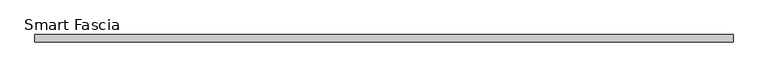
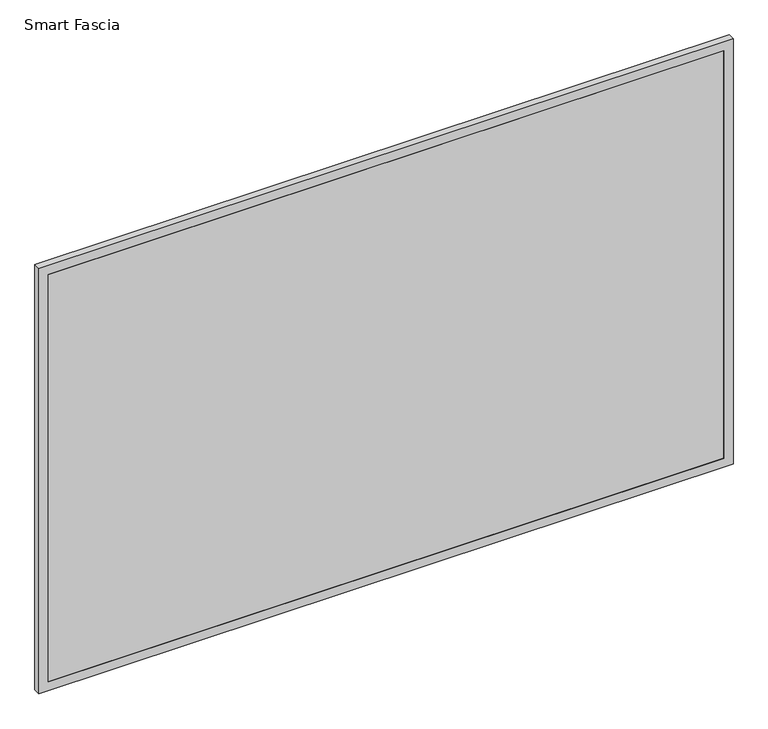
"""IFC4 building model written with IfcOpenShell, lengths in millimetres: proxy geometry, Panel-Fascia-Teknion-Altos-Smart : Smart Fascia."""

import ifcopenshell
import ifcopenshell.guid

model = None  # the IFC model being written
_history = None  # IfcOwnerHistory: only IFC2X3 demands one
_inside = {}  # id of a spatial element -> (the spatial element, [elements in it])
_under = {}  # id of a project, library or spatial element -> (it, [spatial elements below it])
_declared = {}  # id of a project -> (the project, [libraries it declares])
_typed = {}  # id of a type object -> (the type object, [elements of that type])
_made_of = {}  # id of a material, layer set ... -> (it, [elements and type objects made of it])


def new_model(schema):
    """Start an empty IFC model of exactly this schema.

    Asked for "IFC4X3", IfcOpenShell would pick the latest addendum, in which some entities
    have other attributes; the version numbers below select the first issue.
    IFC2X3 requires an IfcOwnerHistory on every rooted entity: one is made here for all.
    """
    global model, _history
    if schema == "IFC4X3":
        model = ifcopenshell.file(schema_version=(4, 3, 0, 0))
    else:
        model = ifcopenshell.file(schema=schema)
    _inside.clear()
    _under.clear()
    _declared.clear()
    _typed.clear()
    _made_of.clear()
    _history = None
    if model.schema == "IFC2X3":
        org = make("IfcOrganization", Name="unknown")
        user = make(
            "IfcPersonAndOrganization",
            ThePerson=make("IfcPerson", FamilyName="unknown"),
            TheOrganization=org,
        )
        app = make(
            "IfcApplication",
            ApplicationDeveloper=org,
            Version="unknown",
            ApplicationFullName="unknown",
            ApplicationIdentifier="unknown",
        )
        _history = make(
            "IfcOwnerHistory",
            OwningUser=user,
            OwningApplication=app,
            ChangeAction="ADDED",
            CreationDate=0,
        )
    return model


def make(cls, **values):
    """One entity of the class cls with the attributes given. An attribute that is None is left unset."""
    return model.create_entity(
        cls, **{name: value for name, value in values.items() if value is not None}
    )


def rooted(cls, **values):
    """An entity with a GlobalId (a new one), such as an element, a storey or a relation."""
    return make(cls, GlobalId=ifcopenshell.guid.new(), OwnerHistory=_history, **values)


def si_unit(unit_type, name, prefix=None):
    """IfcSIUnit, for example si_unit("LENGTHUNIT", "METRE", prefix="MILLI")."""
    return make("IfcSIUnit", UnitType=unit_type, Prefix=prefix, Name=name)


def assignment(units):
    """IfcUnitAssignment: the units of a project."""
    return None if units is None else make("IfcUnitAssignment", Units=units)


def point(xyz):
    """IfcCartesianPoint."""
    return None if xyz is None else make("IfcCartesianPoint", Coordinates=xyz)


def direction(xyz):
    """IfcDirection."""
    return None if xyz is None else make("IfcDirection", DirectionRatios=xyz)


def frame(location, z_axis=None, x_axis=None):
    """IfcAxis2Placement3D, a coordinate frame: its origin and axes. An axis left out is left unset."""
    return make(
        "IfcAxis2Placement3D",
        Location=point(location),
        Axis=direction(z_axis),
        RefDirection=direction(x_axis),
    )


def origin():
    """The frame at (0, 0, 0) with its axes left unset."""
    return frame((0.0, 0.0, 0.0))


def place(relative_to, where):
    """IfcLocalPlacement: puts the frame where relative to a parent placement (None: the world)."""
    return make(
        "IfcLocalPlacement", PlacementRelTo=relative_to, RelativePlacement=where
    )


def context(
    kind, dimensions, precision=None, world=None, true_north=None, identifier=None
):
    """IfcGeometricRepresentationContext, for example the 3D "Model" context."""
    return make(
        "IfcGeometricRepresentationContext",
        ContextIdentifier=identifier,
        ContextType=kind,
        CoordinateSpaceDimension=dimensions,
        Precision=precision,
        WorldCoordinateSystem=world,
        TrueNorth=true_north,
    )


def project(units=None, contexts=None):
    """IfcProject with its units and contexts."""
    return rooted(
        "IfcProject",
        Name="project",
        RepresentationContexts=contexts,
        UnitsInContext=assignment(units),
    )


def spatial(cls, under=None, at=None, **own):
    """A site, building, storey or space (cls), placed at a placement, below another one or the project."""
    s = rooted(cls, ObjectPlacement=at, **own)
    if under is not None:
        _under.setdefault(under.id(), (under, []))[1].append(s)
    return s


def polyline(points):
    """IfcPolyline through the points."""
    return make("IfcPolyline", Points=[point(p) for p in points])


def outline(outer, holes=None, kind="AREA"):
    """IfcArbitraryClosedProfileDef: a profile drawn as a closed curve; with holes, ...WithVoids."""
    if holes is None:
        return make("IfcArbitraryClosedProfileDef", ProfileType=kind, OuterCurve=outer)
    return make(
        "IfcArbitraryProfileDefWithVoids",
        ProfileType=kind,
        OuterCurve=outer,
        InnerCurves=holes,
    )


def extrude(swept, where, along, depth):
    """IfcExtrudedAreaSolid: the profile swept, set in the frame where, extruded along a direction by depth."""
    return make(
        "IfcExtrudedAreaSolid",
        SweptArea=swept,
        Position=where,
        ExtrudedDirection=direction(along),
        Depth=depth,
    )


def shape(context_of_items, identifier, shape_type, items):
    """IfcShapeRepresentation: the items that make up one representation, for example the "Body"."""
    return make(
        "IfcShapeRepresentation",
        ContextOfItems=context_of_items,
        RepresentationIdentifier=identifier,
        RepresentationType=shape_type,
        Items=items,
    )


def source(mapping_origin, context_of_items, identifier, shape_type, items):
    """IfcRepresentationMap: a shape defined once, which mapped items show again and again."""
    return make(
        "IfcRepresentationMap",
        MappingOrigin=mapping_origin,
        MappedRepresentation=shape(context_of_items, identifier, shape_type, items),
    )


def transform(
    local_origin,
    x_axis=None,
    y_axis=None,
    z_axis=None,
    scale=None,
    scale2=None,
    scale3=None,
    uniform=True,
):
    """IfcCartesianTransformationOperator3D, or its non-uniform kind. x_axis, y_axis, z_axis: its Axis1, 2, 3."""
    if uniform:
        return make(
            "IfcCartesianTransformationOperator3D",
            Axis1=direction(x_axis),
            Axis2=direction(y_axis),
            LocalOrigin=point(local_origin),
            Scale=scale,
            Axis3=direction(z_axis),
        )
    return make(
        "IfcCartesianTransformationOperator3DnonUniform",
        Axis1=direction(x_axis),
        Axis2=direction(y_axis),
        LocalOrigin=point(local_origin),
        Scale=scale,
        Axis3=direction(z_axis),
        Scale2=scale2,
        Scale3=scale3,
    )


def mapped(mapping_source, mapping_target):
    """IfcMappedItem: shows the shape of a source again, moved by a transform."""
    return make(
        "IfcMappedItem", MappingSource=mapping_source, MappingTarget=mapping_target
    )


def made_of(thing, what):
    """Note that an element or type object is made of a material, layer set ...; save() writes the relation."""
    if what is not None:
        _made_of.setdefault(what.id(), (what, []))[1].append(thing)
    return thing


def element(
    cls,
    number,
    at=None,
    inside=None,
    cuts=None,
    type_object=None,
    material=None,
    context=None,
    identifier="Body",
    shape_type=None,
    held_by="IfcProductDefinitionShape",
    body=None,
    shapes=None,
    **own,
):
    """One element of the class cls, such as IfcWall. Its Tag is "e" and its number.

    at: its placement. inside: the storey or other place that contains it. cuts: it is an
    opening in that element (IfcRelVoidsElement). A single representation is given by context,
    identifier, shape_type and body (its items); several are given by shapes. held_by: the class
    of the entity that holds the representations. save() writes the other relations.
    """
    e = rooted(cls, Tag="e%d" % number, ObjectPlacement=at, **own)
    if body is not None:
        shapes = [shape(context, identifier, shape_type, body)]
    if shapes is not None:
        e.Representation = make(held_by, Representations=shapes)
    if inside is not None:
        _inside.setdefault(inside.id(), (inside, []))[1].append(e)
    if cuts is not None:
        rooted(
            "IfcRelVoidsElement", RelatingBuildingElement=cuts, RelatedOpeningElement=e
        )
    if type_object is not None:
        _typed.setdefault(type_object.id(), (type_object, []))[1].append(e)
    return made_of(e, material)


def aggregate(whole, parts):
    """IfcRelAggregates: a whole, such as a stair, and the parts it consists of."""
    return rooted("IfcRelAggregates", RelatingObject=whole, RelatedObjects=parts)


def save(model, path):
    """Write the relations noted so far, then the file.

    IfcRelAggregates (storeys below a building ...), IfcRelContainedInSpatialStructure (elements
    in a storey), IfcRelDefinesByType, IfcRelAssociatesMaterial and IfcRelDeclares: one each for
    every whole, place, type object, material and project.
    """
    for whole, parts in _under.values():
        aggregate(whole, parts)
    for where, things in _inside.values():
        rooted(
            "IfcRelContainedInSpatialStructure",
            RelatedElements=things,
            RelatingStructure=where,
        )
    for kind, things in _typed.values():
        rooted("IfcRelDefinesByType", RelatedObjects=things, RelatingType=kind)
    for what, things in _made_of.values():
        rooted("IfcRelAssociatesMaterial", RelatedObjects=things, RelatingMaterial=what)
    for by, libraries in _declared.values():
        rooted("IfcRelDeclares", RelatingContext=by, RelatedDefinitions=libraries)
    model.write(path)


def smart_fascia_c452c61a(model_context):
    return source(origin(), model_context, "Body", "SweptSolid", [
        extrude(outline(polyline([(1216.025, 1132.8569781), (1216.025, -739.1031782), (3.175, -739.1031782), (3.175, 1132.8569781), (1216.025, 1132.8569781)]), holes=[polyline([(28.575, 1107.4569781), (28.575, -713.7031782), (1190.625, -713.7031782), (1190.625, 1107.4569781), (28.575, 1107.4569781)])]), frame((0.0, 0.0, 0.0), z_axis=(0.0, 1.0, 0.0), x_axis=(0.0, 0.0, 1.0)), (0.0, 0.0, 1.0), 19.05),
        extrude(outline(polyline([(1107.4569781, 19.05), (1107.4569781, 0.0), (-713.7031782, 0.0), (-713.7031782, 19.05), (1107.4569781, 19.05)])), frame((0.0, 0.0, 28.575), z_axis=(0.0, 0.0, 1.0), x_axis=(1.0, 0.0, 0.0)), (0.0, 0.0, 1.0), 1162.05),
    ])


if __name__ == "__main__":
    model = new_model("IFC4")
    model_context = context("Model", 3, world=origin())
    ifc_project = project(units=[si_unit("LENGTHUNIT", "METRE", prefix="MILLI")], contexts=[model_context])
    site = spatial("IfcSite", under=ifc_project)
    building = spatial("IfcBuilding", under=site)
    placement = place(None, origin())
    smart_fascia_shape = smart_fascia_c452c61a(model_context)
    element("IfcBuildingElementProxy", 1, Name="Panel-Fascia-Teknion-Altos-Smart : Smart Fascia", ObjectType="Panel-Fascia-Teknion-Altos-Smart : Smart Fascia", at=placement, inside=building, context=model_context, shape_type="MappedRepresentation", body=[
        mapped(smart_fascia_shape, transform((0.0, 0.0, 0.0), x_axis=(1.0, 0.0, 0.0), y_axis=(0.0, 1.0, 0.0), z_axis=(0.0, 0.0, 1.0))),
    ])
    save(model, "model.ifc")
